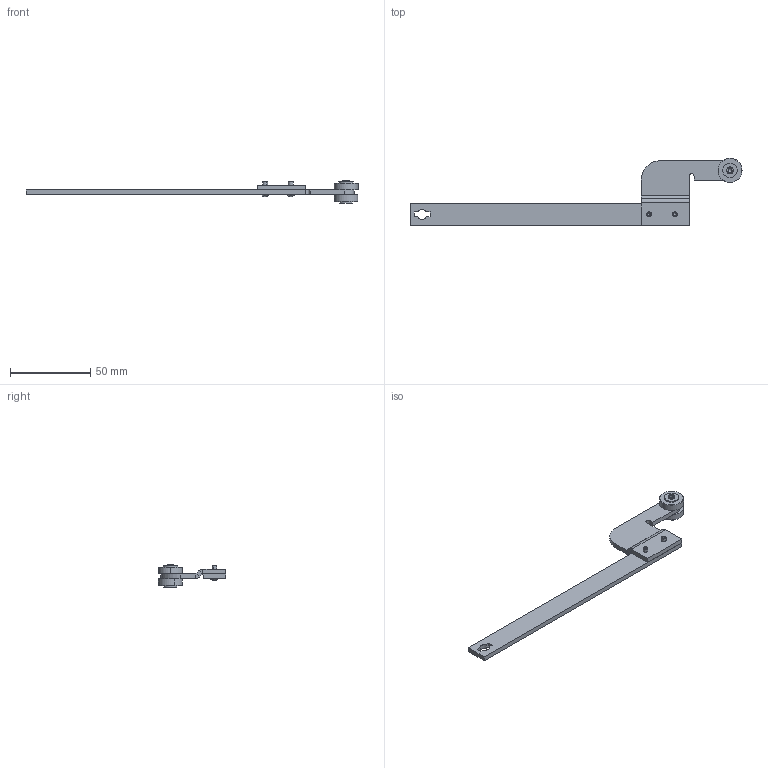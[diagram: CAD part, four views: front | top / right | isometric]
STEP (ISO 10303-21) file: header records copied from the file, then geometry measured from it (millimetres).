
FILE_DESCRIPTION (( 'STEP AP214' ), '1' );
FILE_NAME ('1C.AB31P-L.STEP', '2025-12-04T12:28:27', ( '' ), ( '' ), 'SwSTEP 2.0', 'SolidWorks 2021', '' );
FILE_SCHEMA (( 'AUTOMOTIVE_DESIGN' ));
Length unit declared in the file: millimetre
Products named in the file (8): DIN 125_M4; P.052724_AB-31; P.052723_AB-P; A.007462_AB-31; 1C.905.001_A; 1C.ROLKA.02.04.00_A-zak; DIN 6791_fi3x8; 1C.AB31P-L
Assembly tree (9 placements, depth 3):
  1C.AB31P-L
    P.052723_AB-P
    A.007462_AB-31
      P.052724_AB-31
      1C.905.001_A  x2
      1C.ROLKA.02.04.00_A-zak
      DIN 125_M4
    DIN 6791_fi3x8  x2
Bounding box: 207.5 x 42 x 14 mm (x, y, z)
Volume: 13486.4 mm3; surface area: 11681.2 mm2
Topology: 8 solids, 8 shells, 105 faces, 234 edges, 145 vertices
Faces by surface type: cylinder 46, plane 45, cone 6, torus 4, sphere 4
Entity records: 2780 total; most frequent: DIRECTION 478, CARTESIAN_POINT 417, ORIENTED_EDGE 388, EDGE_CURVE 194, AXIS2_PLACEMENT_3D 184, VERTEX_POINT 123, VECTOR 110, LINE 110
